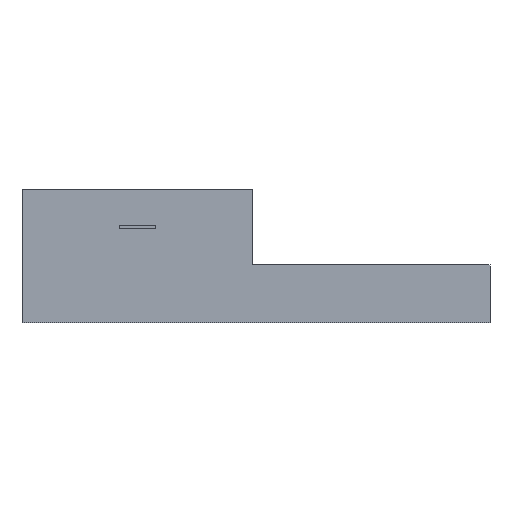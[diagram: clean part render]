
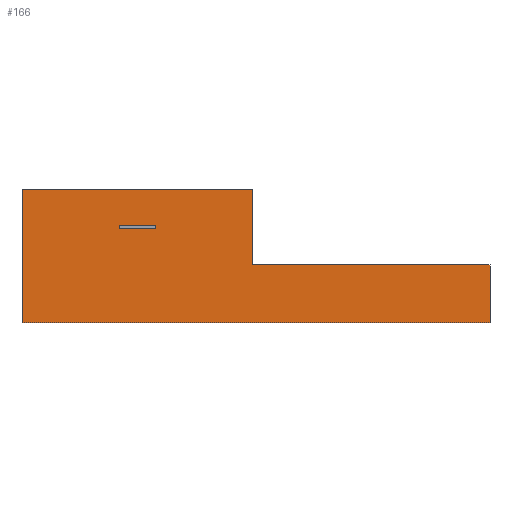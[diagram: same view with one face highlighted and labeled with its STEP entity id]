
A CAD part, left-side view. The second image highlights one B-rep face of the part: STEP entity #166.
In plain terms, the highlighted planar face has unit normal (-1, 0, 0).
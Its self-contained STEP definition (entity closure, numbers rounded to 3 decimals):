
#166=ADVANCED_FACE('',(#319,#321),#323,.T.);
#319=FACE_BOUND('',#320,.T.);
#320=EDGE_LOOP('',(#428,#429,#430,#431,#432,#433));
#321=FACE_BOUND('',#322,.T.);
#322=EDGE_LOOP('',(#434,#435,#436,#437));
#323=PLANE('',#324);
#324=AXIS2_PLACEMENT_3D('',#325,#326,#327);
#325=CARTESIAN_POINT('',(-3.2,6.5,2.6));
#326=DIRECTION('',(-1.,0.,0.));
#327=DIRECTION('',(0.,-1.,0.));
#428=ORIENTED_EDGE('',*,*,#481,.T.);
#429=ORIENTED_EDGE('',*,*,#480,.F.);
#430=ORIENTED_EDGE('',*,*,#491,.F.);
#431=ORIENTED_EDGE('',*,*,#488,.T.);
#432=ORIENTED_EDGE('',*,*,#487,.T.);
#433=ORIENTED_EDGE('',*,*,#483,.F.);
#434=ORIENTED_EDGE('',*,*,#492,.F.);
#435=ORIENTED_EDGE('',*,*,#493,.F.);
#436=ORIENTED_EDGE('',*,*,#494,.F.);
#437=ORIENTED_EDGE('',*,*,#495,.F.);
#480=EDGE_CURVE('',#538,#536,#540,.T.);
#481=EDGE_CURVE('',#541,#536,#542,.T.);
#483=EDGE_CURVE('',#541,#544,#545,.T.);
#487=EDGE_CURVE('',#549,#544,#551,.T.);
#488=EDGE_CURVE('',#552,#549,#553,.T.);
#491=EDGE_CURVE('',#552,#538,#557,.T.);
#492=EDGE_CURVE('',#558,#559,#560,.T.);
#493=EDGE_CURVE('',#561,#558,#562,.T.);
#494=EDGE_CURVE('',#563,#561,#564,.T.);
#495=EDGE_CURVE('',#559,#563,#565,.F.);
#536=VERTEX_POINT('',#646);
#538=VERTEX_POINT('',#650);
#540=LINE('',#654,#655);
#541=VERTEX_POINT('',#657);
#542=LINE('',#658,#659);
#544=VERTEX_POINT('',#664);
#545=LINE('',#665,#666);
#549=VERTEX_POINT('',#676);
#551=LINE('',#680,#681);
#552=VERTEX_POINT('',#683);
#553=LINE('',#684,#685);
#557=LINE('',#695,#696);
#558=VERTEX_POINT('',#698);
#559=VERTEX_POINT('',#699);
#560=LINE('',#700,#701);
#561=VERTEX_POINT('',#703);
#562=LINE('',#704,#705);
#563=VERTEX_POINT('',#707);
#564=LINE('',#708,#709);
#565=LINE('',#711,#712);
#646=CARTESIAN_POINT('',(-3.2,0.1,3.7));
#650=CARTESIAN_POINT('',(-3.2,6.5,3.7));
#654=CARTESIAN_POINT('',(-3.2,6.5,3.7));
#655=VECTOR('',#656,1.);
#656=DIRECTION('',(0.,-1.,0.));
#657=CARTESIAN_POINT('',(-3.2,0.1,1.6));
#658=CARTESIAN_POINT('',(-3.2,0.1,1.6));
#659=VECTOR('',#660,1.);
#660=DIRECTION('',(0.,0.,1.));
#664=CARTESIAN_POINT('',(-3.2,-6.5,1.6));
#665=CARTESIAN_POINT('',(-3.2,0.1,1.6));
#666=VECTOR('',#667,1.);
#667=DIRECTION('',(0.,-1.,0.));
#676=CARTESIAN_POINT('',(-3.2,-6.5,0.));
#680=CARTESIAN_POINT('',(-3.2,-6.5,0.));
#681=VECTOR('',#682,1.);
#682=DIRECTION('',(0.,0.,1.));
#683=CARTESIAN_POINT('',(-3.2,6.5,0.));
#684=CARTESIAN_POINT('',(-3.2,6.5,0.));
#685=VECTOR('',#686,1.);
#686=DIRECTION('',(0.,-1.,0.));
#695=CARTESIAN_POINT('',(-3.2,6.5,0.));
#696=VECTOR('',#697,1.);
#697=DIRECTION('',(0.,0.,1.));
#698=CARTESIAN_POINT('',(-3.2,3.8,2.7));
#699=CARTESIAN_POINT('',(-3.2,3.8,2.6));
#700=CARTESIAN_POINT('',(-3.2,3.8,2.7));
#701=VECTOR('',#702,1.);
#702=DIRECTION('',(0.,0.,-1.));
#703=CARTESIAN_POINT('',(-3.2,2.8,2.7));
#704=CARTESIAN_POINT('',(-3.2,2.8,2.7));
#705=VECTOR('',#706,1.);
#706=DIRECTION('',(0.,1.,0.));
#707=CARTESIAN_POINT('',(-3.2,2.8,2.6));
#708=CARTESIAN_POINT('',(-3.2,2.8,2.6));
#709=VECTOR('',#710,1.);
#710=DIRECTION('',(0.,0.,1.));
#711=CARTESIAN_POINT('',(-3.2,2.8,2.6));
#712=VECTOR('',#713,1.);
#713=DIRECTION('',(0.,1.,0.));
